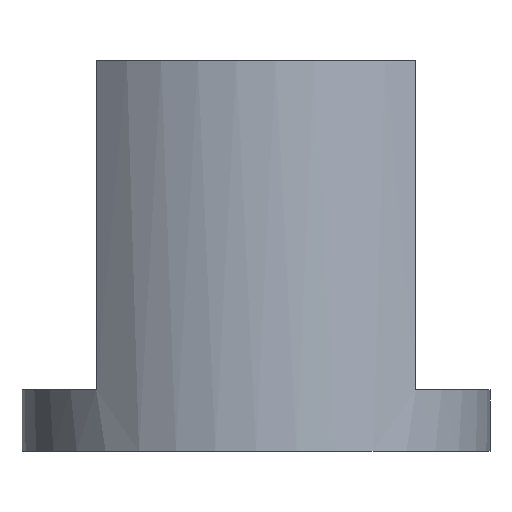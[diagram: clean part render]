
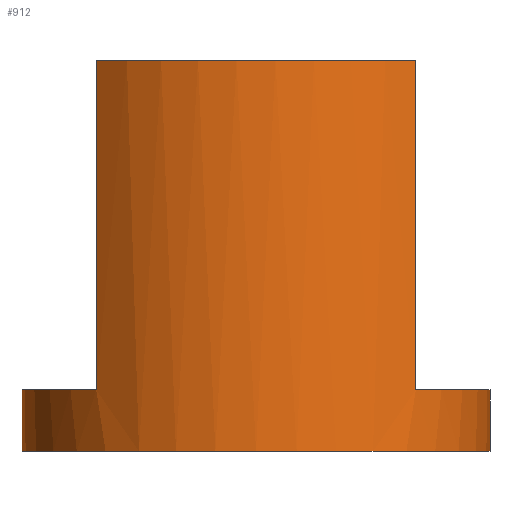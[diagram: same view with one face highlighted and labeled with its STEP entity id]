
A CAD part, front view. The second image highlights one B-rep face of the part: STEP entity #912.
In plain terms, the highlighted cylindrical face has radius 9.207 mm (diameter 18.415 mm), a partial arc.
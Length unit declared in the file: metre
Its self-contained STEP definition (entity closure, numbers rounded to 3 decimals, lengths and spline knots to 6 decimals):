
#49=CYLINDRICAL_SURFACE('',#1009,0.009208);
#58=CIRCLE('',#944,0.009208);
#65=CIRCLE('',#954,0.009208);
#71=CIRCLE('',#962,0.009208);
#90=CIRCLE('',#1006,0.009208);
#295=ORIENTED_EDGE('',*,*,#488,.F.);
#296=ORIENTED_EDGE('',*,*,#467,.T.);
#297=ORIENTED_EDGE('',*,*,#413,.T.);
#298=ORIENTED_EDGE('',*,*,#476,.F.);
#299=ORIENTED_EDGE('',*,*,#394,.F.);
#300=ORIENTED_EDGE('',*,*,#416,.T.);
#301=ORIENTED_EDGE('',*,*,#373,.T.);
#302=ORIENTED_EDGE('',*,*,#474,.F.);
#373=EDGE_CURVE('',#503,#509,#58,.T.);
#394=EDGE_CURVE('',#530,#531,#65,.T.);
#413=EDGE_CURVE('',#548,#547,#71,.T.);
#416=EDGE_CURVE('',#530,#503,#614,.T.);
#467=EDGE_CURVE('',#581,#548,#647,.T.);
#474=EDGE_CURVE('',#585,#509,#653,.T.);
#476=EDGE_CURVE('',#531,#547,#655,.T.);
#488=EDGE_CURVE('',#581,#585,#90,.T.);
#503=VERTEX_POINT('',#1277);
#509=VERTEX_POINT('',#1288);
#530=VERTEX_POINT('',#1357);
#531=VERTEX_POINT('',#1359);
#547=VERTEX_POINT('',#1439);
#548=VERTEX_POINT('',#1441);
#581=VERTEX_POINT('',#1615);
#585=VERTEX_POINT('',#1627);
#614=LINE('',#1445,#690);
#647=LINE('',#1614,#723);
#653=LINE('',#1628,#729);
#655=LINE('',#1632,#731);
#690=VECTOR('',#1095,1.);
#723=VECTOR('',#1184,1.);
#729=VECTOR('',#1196,1.);
#731=VECTOR('',#1202,1.);
#783=EDGE_LOOP('',(#295,#296,#297,#298,#299,#300,#301,#302));
#837=FACE_BOUND('',#783,.T.);
#912=ADVANCED_FACE('',(#837),#49,.T.);
#944=AXIS2_PLACEMENT_3D('',#1289,#1038,#1039);
#954=AXIS2_PLACEMENT_3D('',#1358,#1064,#1065);
#962=AXIS2_PLACEMENT_3D('',#1440,#1089,#1090);
#1006=AXIS2_PLACEMENT_3D('',#1652,#1228,#1229);
#1009=AXIS2_PLACEMENT_3D('',#1655,#1234,#1235);
#1038=DIRECTION('',(0.,0.,-1.));
#1039=DIRECTION('',(0.,1.,0.));
#1064=DIRECTION('',(0.,0.,1.));
#1065=DIRECTION('',(0.,1.,0.));
#1089=DIRECTION('',(0.,0.,-1.));
#1090=DIRECTION('',(0.,1.,0.));
#1095=DIRECTION('',(0.,0.,-1.));
#1184=DIRECTION('',(0.,0.,1.));
#1196=DIRECTION('',(0.,0.,1.));
#1202=DIRECTION('',(0.,0.,-1.));
#1228=DIRECTION('',(0.,0.,-1.));
#1229=DIRECTION('',(0.,1.,0.));
#1234=DIRECTION('',(0.,0.,1.));
#1235=DIRECTION('',(0.,-1.,0.));
#1277=CARTESIAN_POINT('',(-0.006287,-0.030057,0.013487));
#1288=CARTESIAN_POINT('',(-0.009208,-0.02333,0.013487));
#1289=CARTESIAN_POINT('',(0.,-0.02333,0.013487));
#1357=CARTESIAN_POINT('',(-0.006287,-0.030057,0.026441));
#1358=CARTESIAN_POINT('',(0.,-0.02333,0.026441));
#1359=CARTESIAN_POINT('',(0.006287,-0.030057,0.026441));
#1439=CARTESIAN_POINT('',(0.006287,-0.030057,0.013487));
#1440=CARTESIAN_POINT('',(0.,-0.02333,0.013487));
#1441=CARTESIAN_POINT('',(0.009208,-0.02333,0.013487));
#1445=CARTESIAN_POINT('',(-0.006287,-0.030057,0.026441));
#1614=CARTESIAN_POINT('',(0.009208,-0.02333,0.011074));
#1615=CARTESIAN_POINT('',(0.009208,-0.02333,0.011074));
#1627=CARTESIAN_POINT('',(-0.009208,-0.02333,0.011074));
#1628=CARTESIAN_POINT('',(-0.009208,-0.02333,0.011074));
#1632=CARTESIAN_POINT('',(0.006287,-0.030057,0.026441));
#1652=CARTESIAN_POINT('',(0.,-0.02333,0.011074));
#1655=CARTESIAN_POINT('',(0.,-0.02333,0.011074));
